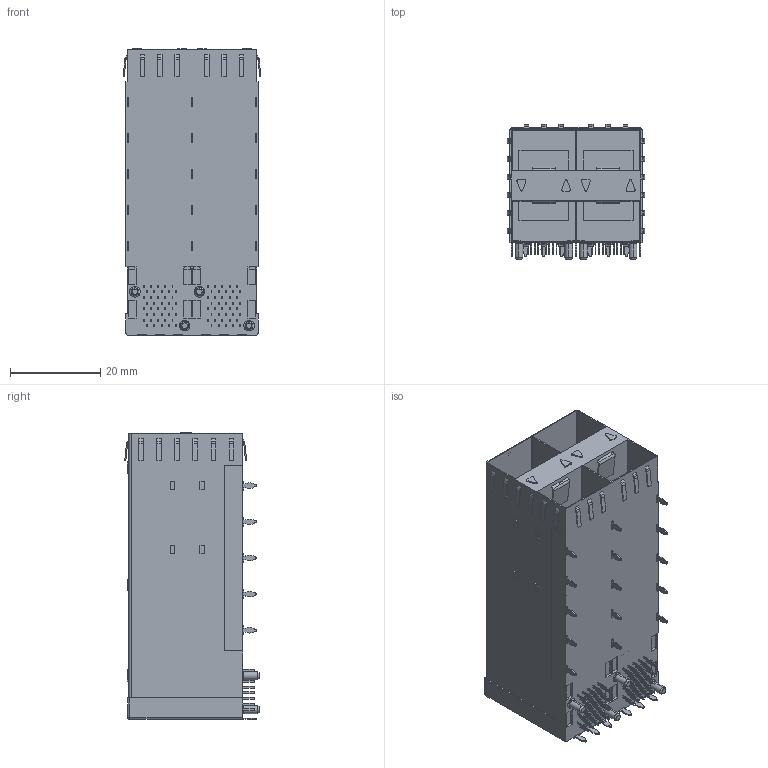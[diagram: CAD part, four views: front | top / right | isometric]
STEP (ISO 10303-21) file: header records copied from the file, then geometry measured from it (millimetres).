
FILE_DESCRIPTION (( 'STEP AP203' ), '1' );
FILE_NAME ('SFP 2X2拸堎挴 俋絳嫖翐.STEP', '2024-05-31T03:02:27', ( '' ), ( '' ), 'SwSTEP 2.0', 'SolidWorks 2018', '' );
FILE_SCHEMA (( 'CONFIG_CONTROL_DESIGN' ));
Length unit declared in the file: millimetre
Products named in the file (1): SFP 2X2拸堎挴 俋絳嫖翐
Bounding box: 30.55 x 29.8 x 63.5 mm (x, y, z)
Volume: 23643.1 mm3; surface area: 18571 mm2
Topology: 1 solids, 1 shells, 1334 faces, 3550 edges, 2358 vertices
Faces by surface type: plane 982, cylinder 334, cone 16, sphere 2
Entity records: 41309 total; most frequent: CARTESIAN_POINT 7241, ORIENTED_EDGE 7096, DIRECTION 6902, EDGE_CURVE 3548, LINE 2864, VECTOR 2864, VERTEX_POINT 2358, AXIS2_PLACEMENT_3D 2019
